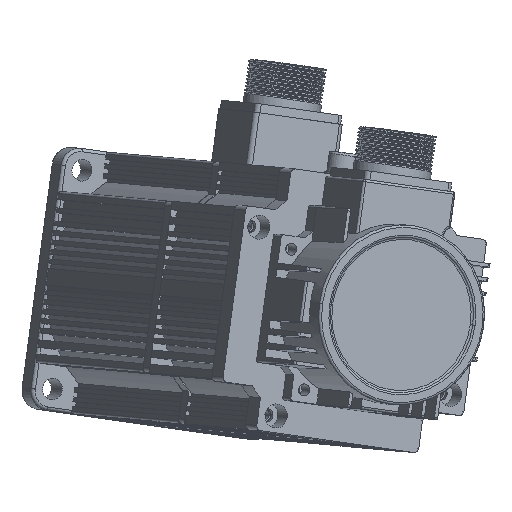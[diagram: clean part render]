
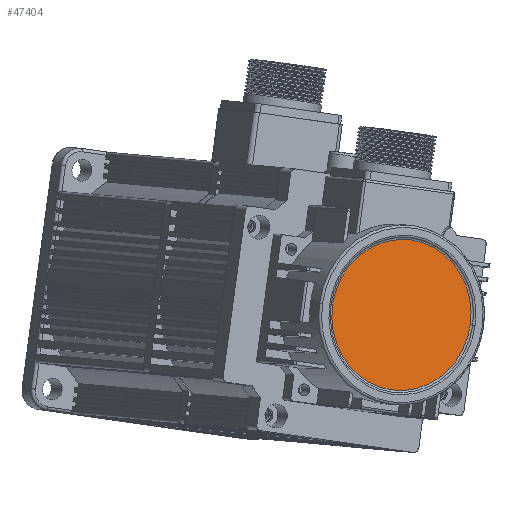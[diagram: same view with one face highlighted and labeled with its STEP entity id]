
A CAD part, front view. The second image highlights one B-rep face of the part: STEP entity #47404.
In plain terms, the highlighted planar face has unit normal (0.389, -0.92, -0.035) as drawn and (0, 0, -1) by its records, which use the part's own axes.
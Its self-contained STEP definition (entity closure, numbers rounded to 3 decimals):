
#1127 = CARTESIAN_POINT ( 'NONE',  ( 0., 0., -41.5 ) ) ;
#1244 = FACE_OUTER_BOUND ( 'NONE', #48888, .T. ) ;
#2351 = DIRECTION ( 'NONE',  ( 0., 0., -1. ) ) ;
#2726 = AXIS2_PLACEMENT_3D ( 'NONE', #49253, #22804, #53685 ) ;
#4008 = EDGE_CURVE ( 'NONE', #35661, #55745, #44423, .T. ) ;
#6661 = CARTESIAN_POINT ( 'NONE',  ( -31.5, 0., -41.5 ) ) ;
#17982 = ORIENTED_EDGE ( 'NONE', *, *, #4008, .T. ) ;
#18763 = DIRECTION ( 'NONE',  ( -1., 0., 0. ) ) ;
#22804 = DIRECTION ( 'NONE',  ( 0., 0., -1. ) ) ;
#24773 = CARTESIAN_POINT ( 'NONE',  ( 31.5, 0., -41.5 ) ) ;
#28687 = CARTESIAN_POINT ( 'NONE',  ( 0., 0., -41.5 ) ) ;
#33102 = DIRECTION ( 'NONE',  ( -1., 0., 0. ) ) ;
#34291 = CIRCLE ( 'NONE', #2726, 31.5 ) ;
#35661 = VERTEX_POINT ( 'NONE', #24773 ) ;
#40805 = PLANE ( 'NONE',  #52672 ) ;
#44423 = CIRCLE ( 'NONE', #48774, 31.5 ) ;
#45231 = DIRECTION ( 'NONE',  ( 0., 0., -1. ) ) ;
#47404 = ADVANCED_FACE ( 'NONE', ( #1244 ), #40805, .T. ) ;
#48774 = AXIS2_PLACEMENT_3D ( 'NONE', #28687, #2351, #33102 ) ;
#48888 = EDGE_LOOP ( 'NONE', ( #53855, #17982 ) ) ;
#49253 = CARTESIAN_POINT ( 'NONE',  ( 0., 0., -41.5 ) ) ;
#52672 = AXIS2_PLACEMENT_3D ( 'NONE', #1127, #45231, #18763 ) ;
#53590 = EDGE_CURVE ( 'NONE', #55745, #35661, #34291, .T. ) ;
#53685 = DIRECTION ( 'NONE',  ( -1., 0., 0. ) ) ;
#53855 = ORIENTED_EDGE ( 'NONE', *, *, #53590, .T. ) ;
#55745 = VERTEX_POINT ( 'NONE', #6661 ) ;
